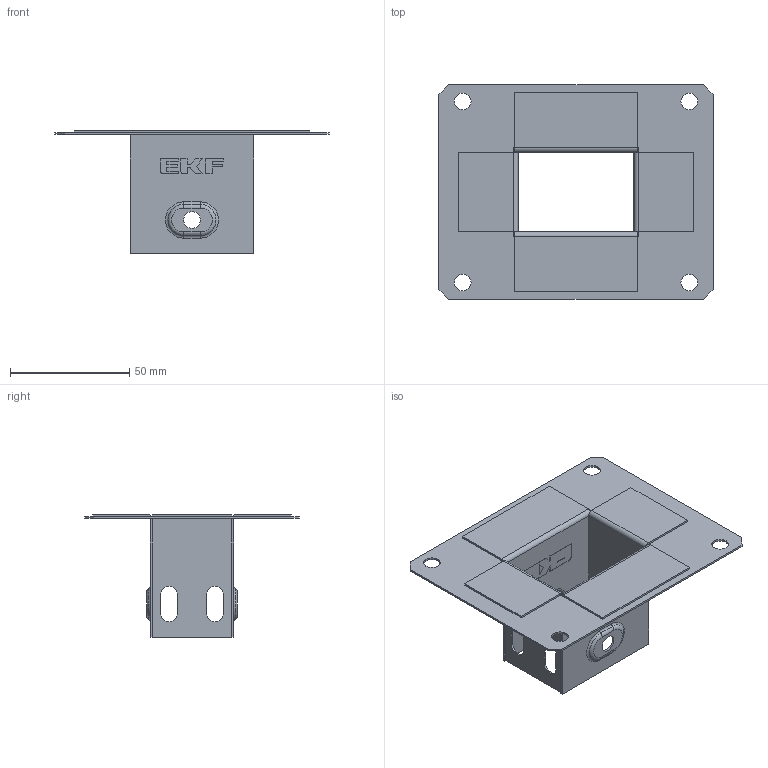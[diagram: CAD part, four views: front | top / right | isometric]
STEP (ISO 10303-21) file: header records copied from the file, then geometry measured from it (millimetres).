
FILE_DESCRIPTION (( 'STEP AP203' ), '1' );
FILE_NAME ('f3550_捘.STEP', '2020-01-23T12:26:11', ( '' ), ( '' ), 'SwSTEP 2.0', 'SolidWorks 2016', '' );
FILE_SCHEMA (( 'CONFIG_CONTROL_DESIGN' ));
Length unit declared in the file: millimetre
Products named in the file (9): f3550_3; f3550_1; f3550_2; f3550_捘
Assembly tree (5 placements, depth 2):
  f3550_3
  f3550_捘
    f3550_1
    f3550_2  x2
    f3550_3  x2
  f3550_1
  f3550_2
  f3550_2
Bounding box: 115 x 90 x 51.5 mm (x, y, z)
Volume: 16501.6 mm3; surface area: 42691.4 mm2
Topology: 5 solids, 5 shells, 306 faces, 792 edges, 512 vertices
Faces by surface type: plane 212, cylinder 60, bspline 18, torus 16
Entity records: 6262 total; most frequent: CARTESIAN_POINT 1358, ORIENTED_EDGE 852, DIRECTION 816, EDGE_CURVE 426, LINE 328, VECTOR 328, VERTEX_POINT 276, AXIS2_PLACEMENT_3D 244
